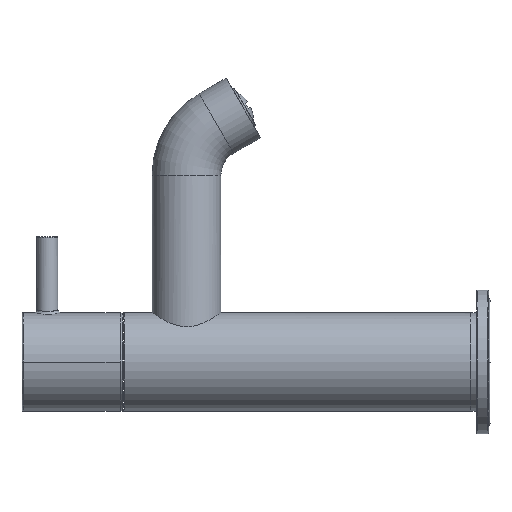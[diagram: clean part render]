
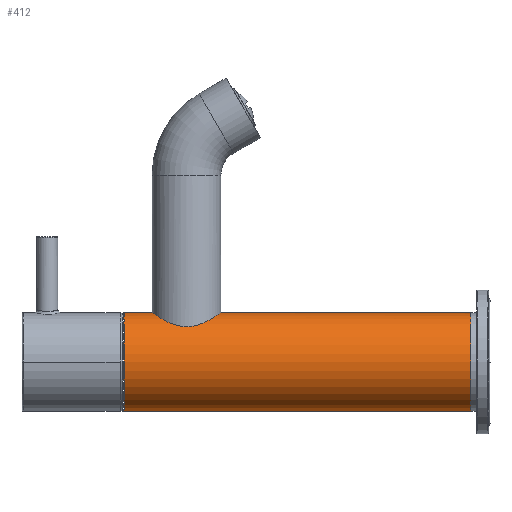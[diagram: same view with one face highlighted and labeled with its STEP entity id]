
A CAD part, left-side view. The second image highlights one B-rep face of the part: STEP entity #412.
In plain terms, the highlighted cylindrical face has radius 16.5 mm (diameter 33 mm), a partial arc.
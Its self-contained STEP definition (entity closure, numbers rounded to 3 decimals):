
#287=CARTESIAN_POINT('',(0.,103.,16.5));
#288=CARTESIAN_POINT('',(-0.376,103.,16.5));
#289=CARTESIAN_POINT('',(-1.125,102.933,16.476));
#290=CARTESIAN_POINT('',(-2.301,102.585,16.352));
#291=CARTESIAN_POINT('',(-3.331,102.034,16.17));
#292=CARTESIAN_POINT('',(-4.224,101.312,15.958));
#293=CARTESIAN_POINT('',(-4.961,100.439,15.742));
#294=CARTESIAN_POINT('',(-5.539,99.414,15.545));
#295=CARTESIAN_POINT('',(-5.92,98.21,15.402));
#296=CARTESIAN_POINT('',(-6.037,97.03,15.356));
#297=CARTESIAN_POINT('',(-5.933,95.861,15.397));
#298=CARTESIAN_POINT('',(-5.569,94.657,15.534));
#299=CARTESIAN_POINT('',(-5.,93.618,15.729));
#300=CARTESIAN_POINT('',(-4.263,92.725,15.947));
#301=CARTESIAN_POINT('',(-3.363,91.986,16.164));
#302=CARTESIAN_POINT('',(-2.326,91.424,16.349));
#303=CARTESIAN_POINT('',(-1.141,91.069,16.475));
#304=CARTESIAN_POINT('',(-0.382,91.,16.5));
#305=CARTESIAN_POINT('',(0.,91.,16.5));
#307=CARTESIAN_POINT('',(0.,2.,0.));
#308=DIRECTION('',(0.,-1.,0.));
#309=DIRECTION('',(0.,0.,1.));
#310=AXIS2_PLACEMENT_3D('',#307,#308,#309);
#312=CARTESIAN_POINT('',(0.,117.8,0.));
#313=DIRECTION('',(0.,-1.,0.));
#314=DIRECTION('',(0.,0.,1.));
#315=AXIS2_PLACEMENT_3D('',#312,#313,#314);
#337=DIRECTION('',(0.,1.,0.));
#338=VECTOR('',#337,14.8);
#339=CARTESIAN_POINT('',(0.,103.,16.5));
#340=LINE('',#339,#338);
#346=DIRECTION('',(0.,1.,0.));
#347=VECTOR('',#346,115.8);
#348=CARTESIAN_POINT('',(0.,2.,-16.5));
#349=LINE('',#348,#347);
#355=DIRECTION('',(0.,1.,0.));
#356=VECTOR('',#355,89.);
#357=CARTESIAN_POINT('',(0.,2.,16.5));
#358=LINE('',#357,#356);
#379=CARTESIAN_POINT('',(0.,2.,-16.5));
#380=CARTESIAN_POINT('',(0.,2.,16.5));
#381=VERTEX_POINT('',#379);
#382=VERTEX_POINT('',#380);
#383=CARTESIAN_POINT('',(0.,117.8,-16.5));
#384=CARTESIAN_POINT('',(0.,117.8,16.5));
#385=VERTEX_POINT('',#383);
#386=VERTEX_POINT('',#384);
#391=VERTEX_POINT('',#305);
#392=VERTEX_POINT('',#287);
#393=CARTESIAN_POINT('',(0.,-3.85,0.));
#394=DIRECTION('',(0.,1.,0.));
#395=DIRECTION('',(0.,0.,-1.));
#396=AXIS2_PLACEMENT_3D('',#393,#394,#395);
#397=CYLINDRICAL_SURFACE('',#396,16.5);
#399=ORIENTED_EDGE('',*,*,#398,.T.);
#401=ORIENTED_EDGE('',*,*,#400,.F.);
#403=ORIENTED_EDGE('',*,*,#402,.T.);
#405=ORIENTED_EDGE('',*,*,#404,.T.);
#407=ORIENTED_EDGE('',*,*,#406,.F.);
#409=ORIENTED_EDGE('',*,*,#408,.F.);
#410=EDGE_LOOP('',(#399,#401,#403,#405,#407,#409));
#411=FACE_OUTER_BOUND('',#410,.F.);
#412=ADVANCED_FACE('',(#411),#397,.T.);
#306=B_SPLINE_CURVE_WITH_KNOTS('',3,(#287,#288,#289,#290,#291,#292,#293,#294,
#295,#296,#297,#298,#299,#300,#301,#302,#303,#304,#305),.UNSPECIFIED.,.F.,.F.,
(4,1,1,1,1,1,1,1,1,1,1,1,1,1,1,1,4),(0.,0.063,0.125,0.188,0.25,
0.313,0.375,0.438,0.5,0.563,0.625,0.688,0.75,0.813,
0.875,0.938,1.),.UNSPECIFIED.);
#311=CIRCLE('',#310,16.5);
#316=CIRCLE('',#315,16.5);
#398=EDGE_CURVE('',#392,#391,#306,.T.);
#400=EDGE_CURVE('',#382,#391,#358,.T.);
#402=EDGE_CURVE('',#382,#381,#311,.T.);
#404=EDGE_CURVE('',#381,#385,#349,.T.);
#406=EDGE_CURVE('',#386,#385,#316,.T.);
#408=EDGE_CURVE('',#392,#386,#340,.T.);
